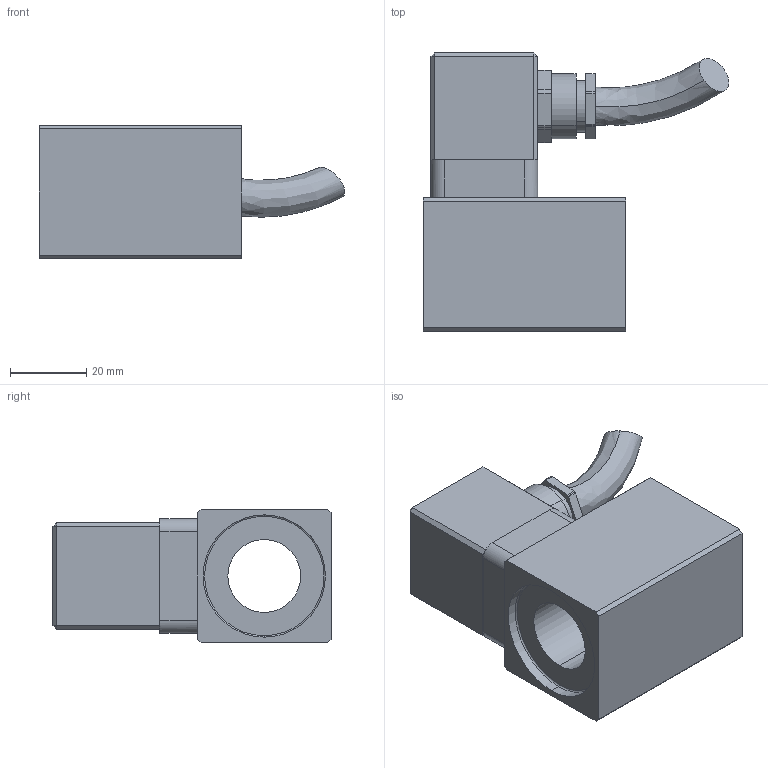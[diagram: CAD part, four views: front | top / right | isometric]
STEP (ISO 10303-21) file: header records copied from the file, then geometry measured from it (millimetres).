
FILE_DESCRIPTION (( 'STEP AP214' ), '1' );
FILE_NAME ('NKS35_19x50-M28-AC.STEP', '2015-07-28T13:58:22', ( '' ), ( '' ), 'SwSTEP 2.0', 'SolidWorks 2014', '' );
FILE_SCHEMA (( 'AUTOMOTIVE_DESIGN' ));
Length unit declared in the file: millimetre
Products named in the file (2): NKS35_19x50-M28-AC
Bounding box: 79.97 x 72.8 x 35 mm (x, y, z)
Volume: 83063.1 mm3; surface area: 20409.9 mm2
Topology: 1 solids, 9 shells, 218 faces, 514 edges, 322 vertices
Faces by surface type: plane 121, cylinder 63, torus 14, cone 12, bspline 8
Entity records: 8774 total; most frequent: CARTESIAN_POINT 1443, DIRECTION 1106, ORIENTED_EDGE 1020, EDGE_CURVE 510, AXIS2_PLACEMENT_3D 421, VERTEX_POINT 322, VECTOR 264, LINE 264
